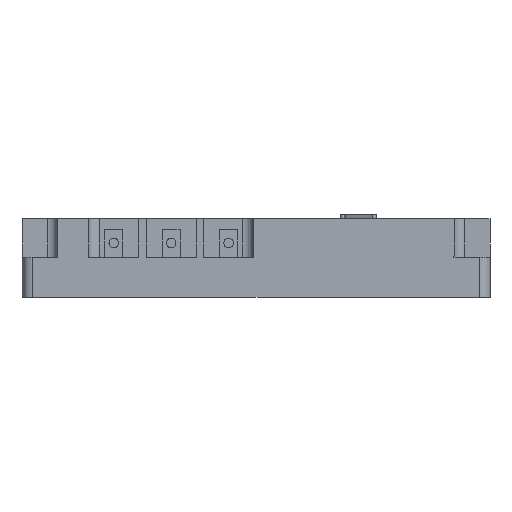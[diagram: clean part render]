
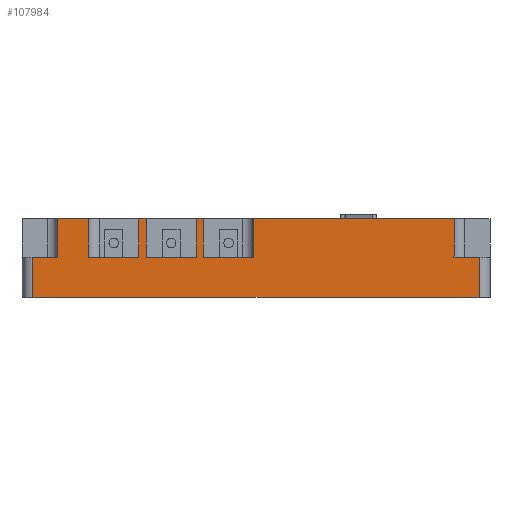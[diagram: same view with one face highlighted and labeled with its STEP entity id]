
A CAD part, left-side view. The second image highlights one B-rep face of the part: STEP entity #107984.
In plain terms, the highlighted planar face has unit normal (-1, 0, 0).
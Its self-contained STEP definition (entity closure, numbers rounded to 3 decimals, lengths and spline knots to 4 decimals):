
#5597=FACE_OUTER_BOUND('',#11102,.T.);
#11102=EDGE_LOOP('',(#96988,#96989,#96990,#96991,#96992,#96993,#96994,#96995,
#96996,#96997,#96998,#96999,#97000,#97001,#97002,#97003,#97004,#97005,#97006,
#97007));
#12365=LINE('',#141840,#27524);
#12381=LINE('',#141878,#27540);
#12405=LINE('',#141931,#27564);
#26176=LINE('',#169676,#41335);
#26180=LINE('',#169686,#41339);
#26184=LINE('',#169694,#41343);
#26188=LINE('',#169704,#41347);
#26194=LINE('',#169761,#41353);
#26197=LINE('',#169770,#41356);
#26200=LINE('',#169774,#41359);
#26203=LINE('',#169779,#41362);
#26207=LINE('',#169786,#41366);
#26211=LINE('',#169793,#41370);
#26213=LINE('',#169801,#41372);
#26218=LINE('',#169814,#41377);
#26252=LINE('',#169890,#41411);
#26253=LINE('',#169892,#41412);
#26254=LINE('',#169894,#41413);
#26255=LINE('',#169896,#41414);
#26256=LINE('',#169897,#41415);
#27524=VECTOR('',#115466,0.3937);
#27540=VECTOR('',#115490,0.3937);
#27564=VECTOR('',#115522,0.3937);
#41335=VECTOR('',#138807,0.3937);
#41339=VECTOR('',#138813,0.3937);
#41343=VECTOR('',#138817,0.3937);
#41347=VECTOR('',#138823,0.3937);
#41353=VECTOR('',#138921,0.3937);
#41356=VECTOR('',#138928,0.3937);
#41359=VECTOR('',#138933,0.3937);
#41362=VECTOR('',#138940,0.3937);
#41366=VECTOR('',#138950,0.3937);
#41370=VECTOR('',#138960,0.3937);
#41372=VECTOR('',#138968,0.3937);
#41377=VECTOR('',#138979,0.3937);
#41411=VECTOR('',#139065,0.3937);
#41412=VECTOR('',#139068,0.3937);
#41413=VECTOR('',#139071,0.3937);
#41414=VECTOR('',#139074,0.3937);
#41415=VECTOR('',#139075,0.3937);
#42359=VERTEX_POINT('',#141832);
#42362=VERTEX_POINT('',#141838);
#42377=VERTEX_POINT('',#141870);
#42380=VERTEX_POINT('',#141876);
#42403=VERTEX_POINT('',#141925);
#42405=VERTEX_POINT('',#141929);
#51621=VERTEX_POINT('',#169673);
#51622=VERTEX_POINT('',#169675);
#51626=VERTEX_POINT('',#169683);
#51627=VERTEX_POINT('',#169685);
#51630=VERTEX_POINT('',#169691);
#51631=VERTEX_POINT('',#169693);
#51635=VERTEX_POINT('',#169701);
#51636=VERTEX_POINT('',#169703);
#51639=VERTEX_POINT('',#169755);
#51641=VERTEX_POINT('',#169759);
#51645=VERTEX_POINT('',#169768);
#51646=VERTEX_POINT('',#169797);
#51648=VERTEX_POINT('',#169800);
#51651=VERTEX_POINT('',#169807);
#52896=EDGE_CURVE('',#42362,#42359,#12365,.T.);
#52914=EDGE_CURVE('',#42380,#42377,#12381,.T.);
#52939=EDGE_CURVE('',#42405,#42403,#12405,.T.);
#66747=EDGE_CURVE('',#51621,#51622,#26176,.T.);
#66752=EDGE_CURVE('',#51626,#51627,#26180,.T.);
#66756=EDGE_CURVE('',#51630,#51631,#26184,.T.);
#66761=EDGE_CURVE('',#51635,#51636,#26188,.T.);
#66770=EDGE_CURVE('',#51639,#51641,#26194,.T.);
#66774=EDGE_CURVE('',#51645,#51641,#26197,.T.);
#66777=EDGE_CURVE('',#51645,#51636,#26200,.T.);
#66780=EDGE_CURVE('',#42380,#51622,#26203,.T.);
#66784=EDGE_CURVE('',#42362,#51631,#26207,.T.);
#66788=EDGE_CURVE('',#42405,#51627,#26211,.T.);
#66791=EDGE_CURVE('',#51646,#51648,#26213,.T.);
#66798=EDGE_CURVE('',#51648,#51651,#26218,.T.);
#66838=EDGE_CURVE('',#42359,#51635,#26252,.T.);
#66839=EDGE_CURVE('',#42403,#51630,#26253,.T.);
#66840=EDGE_CURVE('',#42377,#51626,#26254,.T.);
#66841=EDGE_CURVE('',#51639,#51646,#26255,.T.);
#66842=EDGE_CURVE('',#51651,#51621,#26256,.T.);
#96988=ORIENTED_EDGE('',*,*,#66841,.F.);
#96989=ORIENTED_EDGE('',*,*,#66770,.T.);
#96990=ORIENTED_EDGE('',*,*,#66774,.F.);
#96991=ORIENTED_EDGE('',*,*,#66777,.T.);
#96992=ORIENTED_EDGE('',*,*,#66761,.F.);
#96993=ORIENTED_EDGE('',*,*,#66838,.F.);
#96994=ORIENTED_EDGE('',*,*,#52896,.F.);
#96995=ORIENTED_EDGE('',*,*,#66784,.T.);
#96996=ORIENTED_EDGE('',*,*,#66756,.F.);
#96997=ORIENTED_EDGE('',*,*,#66839,.F.);
#96998=ORIENTED_EDGE('',*,*,#52939,.F.);
#96999=ORIENTED_EDGE('',*,*,#66788,.T.);
#97000=ORIENTED_EDGE('',*,*,#66752,.F.);
#97001=ORIENTED_EDGE('',*,*,#66840,.F.);
#97002=ORIENTED_EDGE('',*,*,#52914,.F.);
#97003=ORIENTED_EDGE('',*,*,#66780,.T.);
#97004=ORIENTED_EDGE('',*,*,#66747,.F.);
#97005=ORIENTED_EDGE('',*,*,#66842,.F.);
#97006=ORIENTED_EDGE('',*,*,#66798,.F.);
#97007=ORIENTED_EDGE('',*,*,#66791,.F.);
#102716=PLANE('',#113389);
#107984=ADVANCED_FACE('',(#5597),#102716,.T.);
#113389=AXIS2_PLACEMENT_3D('',#169895,#139072,#139073);
#115466=DIRECTION('',(0.,-1.,0.));
#115490=DIRECTION('',(0.,-1.,0.));
#115522=DIRECTION('',(0.,-1.,0.));
#138807=DIRECTION('',(0.,-1.,0.));
#138813=DIRECTION('',(0.,-1.,0.));
#138817=DIRECTION('',(0.,-1.,0.));
#138823=DIRECTION('',(0.,-1.,0.));
#138921=DIRECTION('',(0.,0.,1.));
#138928=DIRECTION('',(0.,-1.,0.));
#138933=DIRECTION('',(0.,0.,1.));
#138940=DIRECTION('',(0.,0.,1.));
#138950=DIRECTION('',(0.,0.,1.));
#138960=DIRECTION('',(0.,0.,1.));
#138968=DIRECTION('',(0.,0.,1.));
#138979=DIRECTION('',(0.,-1.,0.));
#139065=DIRECTION('',(0.,0.,1.));
#139068=DIRECTION('',(0.,0.,1.));
#139071=DIRECTION('',(0.,0.,1.));
#139072=DIRECTION('center_axis',(-1.,0.,0.));
#139073=DIRECTION('ref_axis',(0.,0.,1.));
#139074=DIRECTION('',(0.,1.,0.));
#139075=DIRECTION('',(0.,0.,1.));
#141832=CARTESIAN_POINT('',(-0.0888,10.7567,0.559));
#141838=CARTESIAN_POINT('',(-0.0888,11.4542,0.559));
#141840=CARTESIAN_POINT('',(-0.0888,11.4542,0.559));
#141870=CARTESIAN_POINT('',(-0.0888,12.3517,0.559));
#141876=CARTESIAN_POINT('',(-0.0888,13.0492,0.559));
#141878=CARTESIAN_POINT('',(-0.0888,13.0492,0.559));
#141925=CARTESIAN_POINT('',(-0.0888,11.5542,0.559));
#141929=CARTESIAN_POINT('',(-0.0888,12.2517,0.559));
#141931=CARTESIAN_POINT('',(-0.0888,12.2517,0.559));
#169673=CARTESIAN_POINT('',(-0.0888,13.4742,1.0955));
#169675=CARTESIAN_POINT('',(-0.0888,13.0492,1.0955));
#169676=CARTESIAN_POINT('',(-0.0888,13.4742,1.0955));
#169683=CARTESIAN_POINT('',(-0.0888,12.3517,1.0955));
#169685=CARTESIAN_POINT('',(-0.0888,12.2517,1.0955));
#169686=CARTESIAN_POINT('',(-0.0888,12.3517,1.0955));
#169691=CARTESIAN_POINT('',(-0.0888,11.5542,1.0955));
#169693=CARTESIAN_POINT('',(-0.0888,11.4542,1.0955));
#169694=CARTESIAN_POINT('',(-0.0888,11.5542,1.0955));
#169701=CARTESIAN_POINT('',(-0.0888,10.7567,1.0955));
#169703=CARTESIAN_POINT('',(-0.0888,7.9742,1.0955));
#169704=CARTESIAN_POINT('',(-0.0888,10.7567,1.0955));
#169755=CARTESIAN_POINT('',(-0.0888,7.6242,0.));
#169759=CARTESIAN_POINT('',(-0.0888,7.6242,0.559));
#169761=CARTESIAN_POINT('',(-0.0888,7.6242,0.));
#169768=CARTESIAN_POINT('',(-0.0888,7.9742,0.559));
#169770=CARTESIAN_POINT('',(-0.0888,7.9742,0.559));
#169774=CARTESIAN_POINT('',(-0.0888,7.9742,0.559));
#169779=CARTESIAN_POINT('',(-0.0888,13.0492,0.559));
#169786=CARTESIAN_POINT('',(-0.0888,11.4542,0.559));
#169793=CARTESIAN_POINT('',(-0.0888,12.2517,0.559));
#169797=CARTESIAN_POINT('',(-0.0888,13.8242,0.));
#169800=CARTESIAN_POINT('',(-0.0888,13.8242,0.559));
#169801=CARTESIAN_POINT('',(-0.0888,13.8242,0.));
#169807=CARTESIAN_POINT('',(-0.0888,13.4742,0.559));
#169814=CARTESIAN_POINT('',(-0.0888,13.8242,0.559));
#169890=CARTESIAN_POINT('',(-0.0888,10.7567,0.559));
#169892=CARTESIAN_POINT('',(-0.0888,11.5542,0.559));
#169894=CARTESIAN_POINT('',(-0.0888,12.3517,0.559));
#169895=CARTESIAN_POINT('Origin',(-0.0888,10.7242,
0.));
#169896=CARTESIAN_POINT('',(-0.0888,7.6242,0.));
#169897=CARTESIAN_POINT('',(-0.0888,13.4742,0.559));
